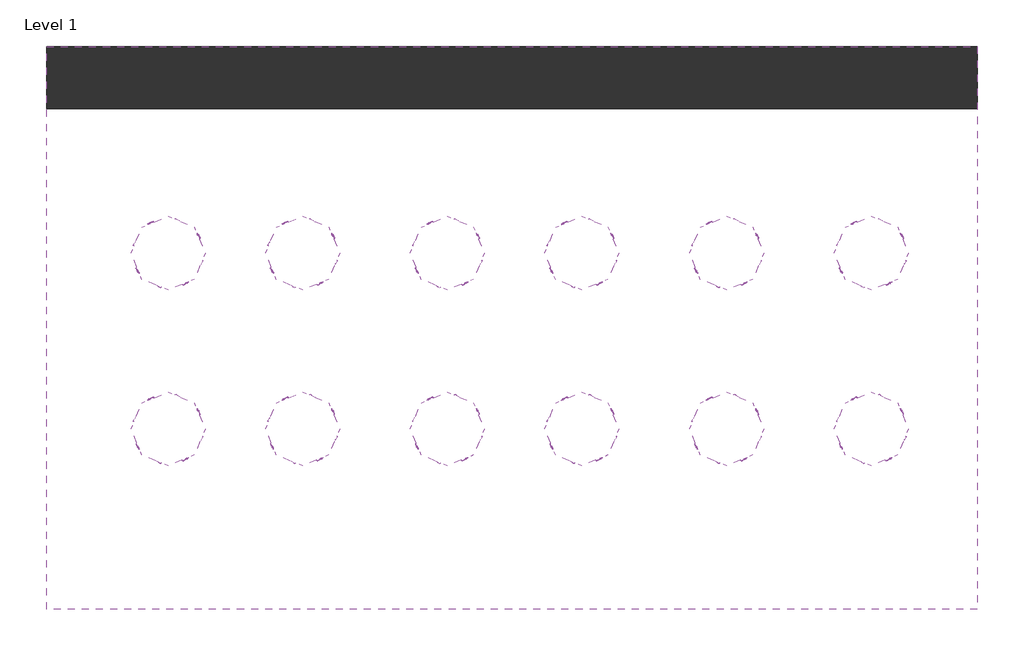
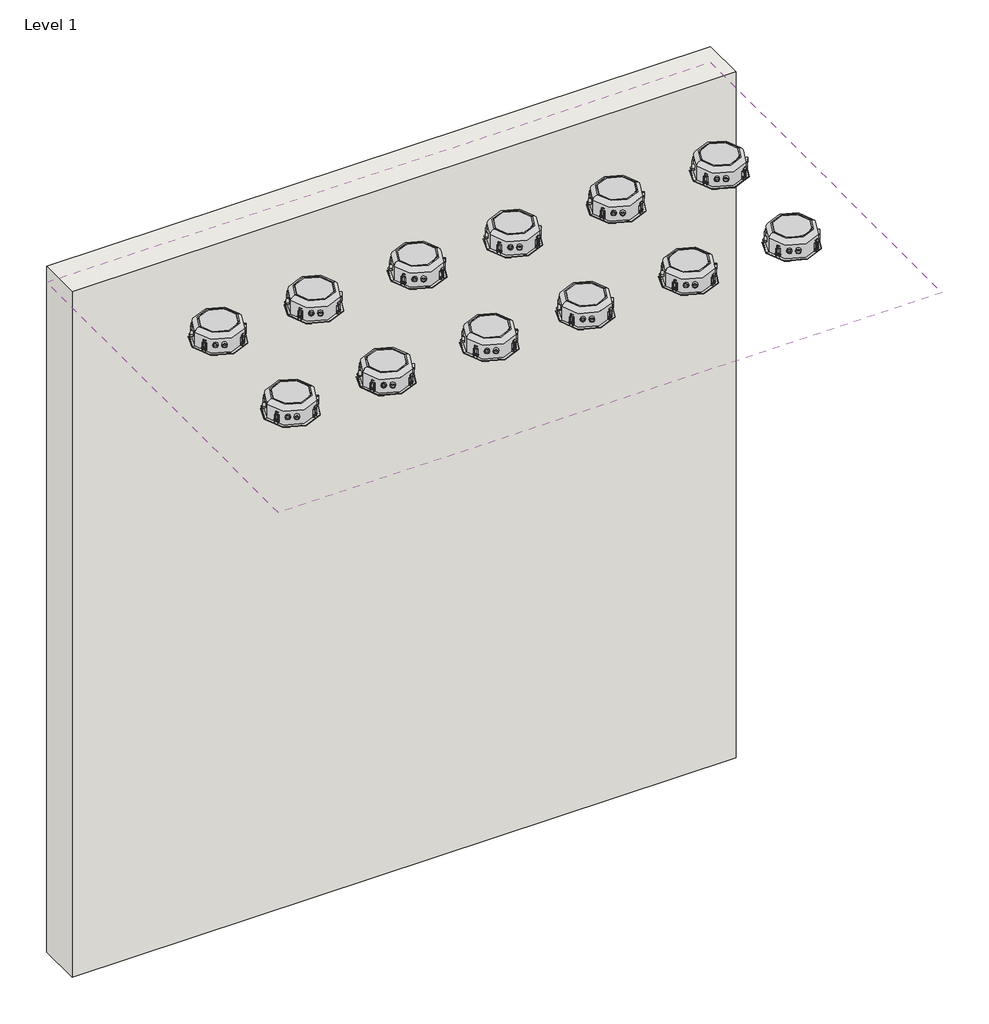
# One storey: 12 proxies, 1 covering, 1 wall.
"""IFC4 building model written with IfcOpenShell, lengths in millimetres."""

from ifc_helpers import new_model, si_unit, frame, origin, origin_with_axes, place, context, project, spatial, polyline, outline, extrude, transform, mapped, element, save
from components import communication_devices_72cecc17, communication_devices_ea9a3868, communication_devices_2c4ee9a5

model = new_model("IFC4")

# Units and contexts
model_context = context("Model", 3, world=origin())
ifc_project = project(units=[si_unit("LENGTHUNIT", "METRE", prefix="MILLI")], contexts=[model_context])

# Site, building, storey
site = spatial("IfcSite", under=ifc_project)
building = spatial("IfcBuilding", under=site)
storey = spatial("IfcBuildingStorey", under=building, Name="Level 1", Elevation=0.0)

# Proxies
placement = place(None, origin())
communication_devices_shape = communication_devices_72cecc17(model_context)
communication_devices_2_shape = communication_devices_ea9a3868(model_context)
communication_devices_3_shape = communication_devices_2c4ee9a5(model_context)
element("IfcBuildingElementProxy", 1, Name="230208 BIM Data_CSE 56T VA : CSE 56T VA", ObjectType="230208 BIM Data_CSE 56T VA : CSE 56T VA", at=placement, inside=storey, context=model_context, shape_type="MappedRepresentation", body=[
    mapped(communication_devices_shape, transform((2131.6473575, 1607.5766815, 2438.4), x_axis=(1.0, 0.0, 0.0), y_axis=(0.0, 1.0, 0.0), z_axis=(0.0, 0.0, 1.0))),
    mapped(communication_devices_2_shape, transform((2131.6473575, 1607.5766815, 2438.4), x_axis=(1.0, 0.0, 0.0), y_axis=(0.0, 1.0, 0.0), z_axis=(0.0, 0.0, 1.0))),
    mapped(communication_devices_3_shape, transform((2131.6473575, 1607.5766815, 2438.4), x_axis=(1.0, 0.0, 0.0), y_axis=(0.0, 1.0, 0.0), z_axis=(0.0, 0.0, 1.0))),
])
element("IfcBuildingElementProxy", 2, Name="230208 BIM Data_CSE 56T VA : CSE 56T VA", ObjectType="230208 BIM Data_CSE 56T VA : CSE 56T VA", at=placement, inside=storey, context=model_context, shape_type="MappedRepresentation", body=[
    mapped(communication_devices_shape, transform((2461.8473575, 1607.5766815, 2438.4), x_axis=(1.0, 0.0, 0.0), y_axis=(0.0, 1.0, 0.0), z_axis=(0.0, 0.0, 1.0))),
    mapped(communication_devices_2_shape, transform((2461.8473575, 1607.5766815, 2438.4), x_axis=(1.0, 0.0, 0.0), y_axis=(0.0, 1.0, 0.0), z_axis=(0.0, 0.0, 1.0))),
    mapped(communication_devices_3_shape, transform((2461.8473575, 1607.5766815, 2438.4), x_axis=(1.0, 0.0, 0.0), y_axis=(0.0, 1.0, 0.0), z_axis=(0.0, 0.0, 1.0))),
])
element("IfcBuildingElementProxy", 3, Name="230208 BIM Data_CSE 56T VA : CSE 56T VA", ObjectType="230208 BIM Data_CSE 56T VA : CSE 56T VA", at=placement, inside=storey, context=model_context, shape_type="MappedRepresentation", body=[
    mapped(communication_devices_shape, transform((2817.4473575, 1607.5766815, 2438.4), x_axis=(1.0, 0.0, 0.0), y_axis=(0.0, 1.0, 0.0), z_axis=(0.0, 0.0, 1.0))),
    mapped(communication_devices_2_shape, transform((2817.4473575, 1607.5766815, 2438.4), x_axis=(1.0, 0.0, 0.0), y_axis=(0.0, 1.0, 0.0), z_axis=(0.0, 0.0, 1.0))),
    mapped(communication_devices_3_shape, transform((2817.4473575, 1607.5766815, 2438.4), x_axis=(1.0, 0.0, 0.0), y_axis=(0.0, 1.0, 0.0), z_axis=(0.0, 0.0, 1.0))),
])
element("IfcBuildingElementProxy", 4, Name="230208 BIM Data_CSE 56T VA : CSE 56T VA", ObjectType="230208 BIM Data_CSE 56T VA : CSE 56T VA", at=placement, inside=storey, context=model_context, shape_type="MappedRepresentation", body=[
    mapped(communication_devices_shape, transform((3147.6473575, 1607.5766815, 2438.4), x_axis=(1.0, 0.0, 0.0), y_axis=(0.0, 1.0, 0.0), z_axis=(0.0, 0.0, 1.0))),
    mapped(communication_devices_2_shape, transform((3147.6473575, 1607.5766815, 2438.4), x_axis=(1.0, 0.0, 0.0), y_axis=(0.0, 1.0, 0.0), z_axis=(0.0, 0.0, 1.0))),
    mapped(communication_devices_3_shape, transform((3147.6473575, 1607.5766815, 2438.4), x_axis=(1.0, 0.0, 0.0), y_axis=(0.0, 1.0, 0.0), z_axis=(0.0, 0.0, 1.0))),
])
element("IfcBuildingElementProxy", 5, Name="230208 BIM Data_CSE 56T VA : CSE 56T VA", ObjectType="230208 BIM Data_CSE 56T VA : CSE 56T VA", at=placement, inside=storey, context=model_context, shape_type="MappedRepresentation", body=[
    mapped(communication_devices_shape, transform((3503.2473575, 1607.5766815, 2438.4), x_axis=(1.0, 0.0, 0.0), y_axis=(0.0, 1.0, 0.0), z_axis=(0.0, 0.0, 1.0))),
    mapped(communication_devices_2_shape, transform((3503.2473575, 1607.5766815, 2438.4), x_axis=(1.0, 0.0, 0.0), y_axis=(0.0, 1.0, 0.0), z_axis=(0.0, 0.0, 1.0))),
    mapped(communication_devices_3_shape, transform((3503.2473575, 1607.5766815, 2438.4), x_axis=(1.0, 0.0, 0.0), y_axis=(0.0, 1.0, 0.0), z_axis=(0.0, 0.0, 1.0))),
])
element("IfcBuildingElementProxy", 6, Name="230208 BIM Data_CSE 56T VA : CSE 56T VA", ObjectType="230208 BIM Data_CSE 56T VA : CSE 56T VA", at=placement, inside=storey, context=model_context, shape_type="MappedRepresentation", body=[
    mapped(communication_devices_shape, transform((3858.8473575, 1607.5766815, 2438.4), x_axis=(1.0, 0.0, 0.0), y_axis=(0.0, 1.0, 0.0), z_axis=(0.0, 0.0, 1.0))),
    mapped(communication_devices_2_shape, transform((3858.8473575, 1607.5766815, 2438.4), x_axis=(1.0, 0.0, 0.0), y_axis=(0.0, 1.0, 0.0), z_axis=(0.0, 0.0, 1.0))),
    mapped(communication_devices_3_shape, transform((3858.8473575, 1607.5766815, 2438.4), x_axis=(1.0, 0.0, 0.0), y_axis=(0.0, 1.0, 0.0), z_axis=(0.0, 0.0, 1.0))),
])
element("IfcBuildingElementProxy", 7, Name="230208 BIM Data_CSE 56T VA : CSE 56T VA", ObjectType="230208 BIM Data_CSE 56T VA : CSE 56T VA", at=placement, inside=storey, context=model_context, shape_type="MappedRepresentation", body=[
    mapped(communication_devices_shape, transform((2131.6473575, 1175.7766815, 2438.4), x_axis=(1.0, 0.0, 0.0), y_axis=(0.0, 1.0, 0.0), z_axis=(0.0, 0.0, 1.0))),
    mapped(communication_devices_2_shape, transform((2131.6473575, 1175.7766815, 2438.4), x_axis=(1.0, 0.0, 0.0), y_axis=(0.0, 1.0, 0.0), z_axis=(0.0, 0.0, 1.0))),
    mapped(communication_devices_3_shape, transform((2131.6473575, 1175.7766815, 2438.4), x_axis=(1.0, 0.0, 0.0), y_axis=(0.0, 1.0, 0.0), z_axis=(0.0, 0.0, 1.0))),
])
element("IfcBuildingElementProxy", 8, Name="230208 BIM Data_CSE 56T VA : CSE 56T VA", ObjectType="230208 BIM Data_CSE 56T VA : CSE 56T VA", at=placement, inside=storey, context=model_context, shape_type="MappedRepresentation", body=[
    mapped(communication_devices_shape, transform((2461.8473575, 1175.7766815, 2438.4), x_axis=(1.0, 0.0, 0.0), y_axis=(0.0, 1.0, 0.0), z_axis=(0.0, 0.0, 1.0))),
    mapped(communication_devices_2_shape, transform((2461.8473575, 1175.7766815, 2438.4), x_axis=(1.0, 0.0, 0.0), y_axis=(0.0, 1.0, 0.0), z_axis=(0.0, 0.0, 1.0))),
    mapped(communication_devices_3_shape, transform((2461.8473575, 1175.7766815, 2438.4), x_axis=(1.0, 0.0, 0.0), y_axis=(0.0, 1.0, 0.0), z_axis=(0.0, 0.0, 1.0))),
])
element("IfcBuildingElementProxy", 9, Name="230208 BIM Data_CSE 56T VA : CSE 56T VA", ObjectType="230208 BIM Data_CSE 56T VA : CSE 56T VA", at=placement, inside=storey, context=model_context, shape_type="MappedRepresentation", body=[
    mapped(communication_devices_shape, transform((2817.4473575, 1175.7766815, 2438.4), x_axis=(1.0, 0.0, 0.0), y_axis=(0.0, 1.0, 0.0), z_axis=(0.0, 0.0, 1.0))),
    mapped(communication_devices_2_shape, transform((2817.4473575, 1175.7766815, 2438.4), x_axis=(1.0, 0.0, 0.0), y_axis=(0.0, 1.0, 0.0), z_axis=(0.0, 0.0, 1.0))),
    mapped(communication_devices_3_shape, transform((2817.4473575, 1175.7766815, 2438.4), x_axis=(1.0, 0.0, 0.0), y_axis=(0.0, 1.0, 0.0), z_axis=(0.0, 0.0, 1.0))),
])
element("IfcBuildingElementProxy", 10, Name="230208 BIM Data_CSE 56T VA : CSE 56T VA", ObjectType="230208 BIM Data_CSE 56T VA : CSE 56T VA", at=placement, inside=storey, context=model_context, shape_type="MappedRepresentation", body=[
    mapped(communication_devices_shape, transform((3147.6473575, 1175.7766815, 2438.4), x_axis=(1.0, 0.0, 0.0), y_axis=(0.0, 1.0, 0.0), z_axis=(0.0, 0.0, 1.0))),
    mapped(communication_devices_2_shape, transform((3147.6473575, 1175.7766815, 2438.4), x_axis=(1.0, 0.0, 0.0), y_axis=(0.0, 1.0, 0.0), z_axis=(0.0, 0.0, 1.0))),
    mapped(communication_devices_3_shape, transform((3147.6473575, 1175.7766815, 2438.4), x_axis=(1.0, 0.0, 0.0), y_axis=(0.0, 1.0, 0.0), z_axis=(0.0, 0.0, 1.0))),
])
element("IfcBuildingElementProxy", 11, Name="230208 BIM Data_CSE 56T VA : CSE 56T VA", ObjectType="230208 BIM Data_CSE 56T VA : CSE 56T VA", at=placement, inside=storey, context=model_context, shape_type="MappedRepresentation", body=[
    mapped(communication_devices_shape, transform((3503.2473575, 1175.7766815, 2438.4), x_axis=(1.0, 0.0, 0.0), y_axis=(0.0, 1.0, 0.0), z_axis=(0.0, 0.0, 1.0))),
    mapped(communication_devices_2_shape, transform((3503.2473575, 1175.7766815, 2438.4), x_axis=(1.0, 0.0, 0.0), y_axis=(0.0, 1.0, 0.0), z_axis=(0.0, 0.0, 1.0))),
    mapped(communication_devices_3_shape, transform((3503.2473575, 1175.7766815, 2438.4), x_axis=(1.0, 0.0, 0.0), y_axis=(0.0, 1.0, 0.0), z_axis=(0.0, 0.0, 1.0))),
])
element("IfcBuildingElementProxy", 12, Name="230208 BIM Data_CSE 56T VA : CSE 56T VA", ObjectType="230208 BIM Data_CSE 56T VA : CSE 56T VA", at=placement, inside=storey, context=model_context, shape_type="MappedRepresentation", body=[
    mapped(communication_devices_shape, transform((3858.8473575, 1175.7766815, 2438.4), x_axis=(1.0, 0.0, 0.0), y_axis=(0.0, 1.0, 0.0), z_axis=(0.0, 0.0, 1.0))),
    mapped(communication_devices_2_shape, transform((3858.8473575, 1175.7766815, 2438.4), x_axis=(1.0, 0.0, 0.0), y_axis=(0.0, 1.0, 0.0), z_axis=(0.0, 0.0, 1.0))),
    mapped(communication_devices_3_shape, transform((3858.8473575, 1175.7766815, 2438.4), x_axis=(1.0, 0.0, 0.0), y_axis=(0.0, 1.0, 0.0), z_axis=(0.0, 0.0, 1.0))),
])

# Covering
element("IfcCovering", 13, ObjectType="2' x 4' ACT System", at=placement, inside=storey, context=model_context, shape_type="SweptSolid", body=[
    extrude(outline(polyline([(4119.1973575, 2115.5766815), (4119.1973575, 732.2741036), (1833.1973575, 732.2741036), (1833.1973575, 2115.5766815), (4119.1973575, 2115.5766815)])), frame((0.0, 0.0, 2438.4), z_axis=(0.0, 0.0, 1.0), x_axis=(1.0, 0.0, 0.0)), (0.0, 0.0, 1.0), 57.15),
])

# Wall
element("IfcWall", 14, ObjectType="Exterior - 6\" Generic", at=placement, inside=storey, context=model_context, shape_type="SweptSolid", body=[
    extrude(outline(polyline([(4119.1973575, 1963.1766815), (1833.1973575, 1963.1766815), (1833.1973575, 2115.5766815), (4119.1973575, 2115.5766815), (4119.1973575, 1963.1766815)])), origin_with_axes(), (0.0, 0.0, 1.0), 2495.55),
])

save(model, "model.ifc")
